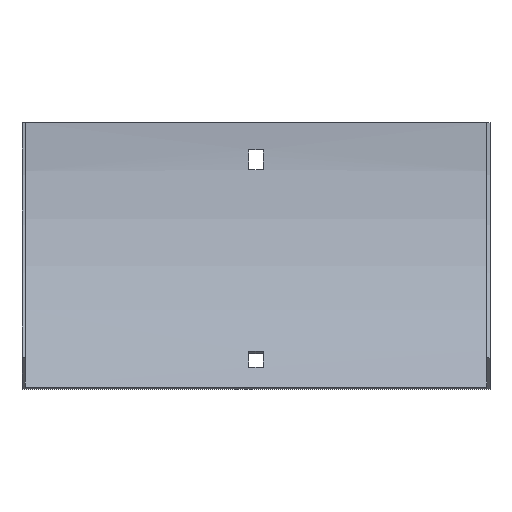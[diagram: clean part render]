
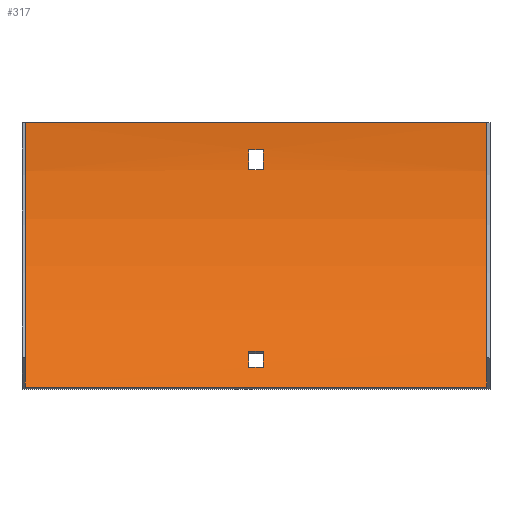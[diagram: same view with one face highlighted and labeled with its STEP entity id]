
A CAD part, front view. The second image highlights one B-rep face of the part: STEP entity #317.
In plain terms, the highlighted cylindrical face has radius 165.5 mm (diameter 331 mm), a partial arc.
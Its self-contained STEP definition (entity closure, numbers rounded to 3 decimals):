
#12 = ORIENTED_EDGE ( 'NONE', *, *, #75, .F. ) ;
#21 = EDGE_CURVE ( 'NONE', #300, #235, #240, .T. ) ;
#23 = VECTOR ( 'NONE', #302, 1000. ) ;
#27 = DIRECTION ( 'NONE',  ( 1., 0., 0. ) ) ;
#29 = EDGE_LOOP ( 'NONE', ( #36, #73, #588, #12 ) ) ;
#31 = CARTESIAN_POINT ( 'NONE',  ( -3.25, -167., 0. ) ) ;
#35 = CARTESIAN_POINT ( 'NONE',  ( 102., -49.974, -117.026 ) ) ;
#36 = ORIENTED_EDGE ( 'NONE', *, *, #131, .F. ) ;
#38 = CARTESIAN_POINT ( 'NONE',  ( -3.25, -167., 0. ) ) ;
#43 = LINE ( 'NONE', #553, #226 ) ;
#49 = VECTOR ( 'NONE', #450, 1000. ) ;
#53 = CARTESIAN_POINT ( 'NONE',  ( 102., -1.5, 0. ) ) ;
#62 = ORIENTED_EDGE ( 'NONE', *, *, #236, .F. ) ;
#71 = VERTEX_POINT ( 'NONE', #494 ) ;
#73 = ORIENTED_EDGE ( 'NONE', *, *, #89, .F. ) ;
#75 = EDGE_CURVE ( 'NONE', #132, #531, #127, .T. ) ;
#83 = CARTESIAN_POINT ( 'NONE',  ( 103.5, -1.936, -12. ) ) ;
#89 = EDGE_CURVE ( 'NONE', #123, #71, #175, .T. ) ;
#90 = EDGE_CURVE ( 'NONE', #235, #485, #572, .T. ) ;
#95 = DIRECTION ( 'NONE',  ( 1., 0., 0. ) ) ;
#104 = LINE ( 'NONE', #53, #552 ) ;
#111 = ORIENTED_EDGE ( 'NONE', *, *, #21, .T. ) ;
#113 = CARTESIAN_POINT ( 'NONE',  ( 3.25, -2.838, -21. ) ) ;
#121 = DIRECTION ( 'NONE',  ( 0., 0., 1. ) ) ;
#123 = VERTEX_POINT ( 'NONE', #130 ) ;
#127 = LINE ( 'NONE', #312, #263 ) ;
#130 = CARTESIAN_POINT ( 'NONE',  ( 3.25, -1.936, -12. ) ) ;
#131 = EDGE_CURVE ( 'NONE', #71, #132, #488, .T. ) ;
#132 = VERTEX_POINT ( 'NONE', #505 ) ;
#136 = AXIS2_PLACEMENT_3D ( 'NONE', #326, #481, #329 ) ;
#140 = CARTESIAN_POINT ( 'NONE',  ( 3.25, -167., 0. ) ) ;
#145 = CIRCLE ( 'NONE', #136, 165.5 ) ;
#149 = CIRCLE ( 'NONE', #560, 165.5 ) ;
#150 = DIRECTION ( 'NONE',  ( -1., 0., 0. ) ) ;
#153 = VERTEX_POINT ( 'NONE', #35 ) ;
#162 = FACE_OUTER_BOUND ( 'NONE', #196, .T. ) ;
#165 = DIRECTION ( 'NONE',  ( -1., 0., 0. ) ) ;
#173 = VERTEX_POINT ( 'NONE', #174 ) ;
#174 = CARTESIAN_POINT ( 'NONE',  ( -102., -49.974, -117.026 ) ) ;
#175 = LINE ( 'NONE', #83, #49 ) ;
#181 = CIRCLE ( 'NONE', #325, 165.5 ) ;
#196 = EDGE_LOOP ( 'NONE', ( #213, #62, #353, #203 ) ) ;
#197 = AXIS2_PLACEMENT_3D ( 'NONE', #389, #541, #121 ) ;
#200 = VERTEX_POINT ( 'NONE', #258 ) ;
#201 = CARTESIAN_POINT ( 'NONE',  ( 103.5, -41.797, -108.233 ) ) ;
#203 = ORIENTED_EDGE ( 'NONE', *, *, #525, .T. ) ;
#213 = ORIENTED_EDGE ( 'NONE', *, *, #230, .F. ) ;
#214 = DIRECTION ( 'NONE',  ( 0., 0., -1. ) ) ;
#226 = VECTOR ( 'NONE', #511, 1000. ) ;
#230 = EDGE_CURVE ( 'NONE', #173, #375, #181, .T. ) ;
#235 = VERTEX_POINT ( 'NONE', #601 ) ;
#236 = EDGE_CURVE ( 'NONE', #153, #173, #43, .T. ) ;
#240 = LINE ( 'NONE', #201, #517 ) ;
#247 = DIRECTION ( 'NONE',  ( -1., 0., 0. ) ) ;
#258 = CARTESIAN_POINT ( 'NONE',  ( 102., -1.5, 0. ) ) ;
#262 = DIRECTION ( 'NONE',  ( 1., 0., 0. ) ) ;
#263 = VECTOR ( 'NONE', #262, 1000. ) ;
#269 = DIRECTION ( 'NONE',  ( 0., 0., 1. ) ) ;
#272 = DIRECTION ( 'NONE',  ( 0., 0., 1. ) ) ;
#275 = EDGE_CURVE ( 'NONE', #153, #200, #445, .T. ) ;
#278 = AXIS2_PLACEMENT_3D ( 'NONE', #31, #27, #214 ) ;
#279 = EDGE_CURVE ( 'NONE', #485, #586, #439, .T. ) ;
#297 = CARTESIAN_POINT ( 'NONE',  ( 3.25, -41.797, -108.233 ) ) ;
#298 = AXIS2_PLACEMENT_3D ( 'NONE', #38, #356, #547 ) ;
#300 = VERTEX_POINT ( 'NONE', #297 ) ;
#302 = DIRECTION ( 'NONE',  ( 1., 0., 0. ) ) ;
#309 = AXIS2_PLACEMENT_3D ( 'NONE', #495, #165, #351 ) ;
#312 = CARTESIAN_POINT ( 'NONE',  ( 103.5, -2.838, -21. ) ) ;
#317 = ADVANCED_FACE ( 'NONE', ( #581, #162, #487 ), #583, .F. ) ;
#321 = CARTESIAN_POINT ( 'NONE',  ( -102., -167., 0. ) ) ;
#325 = AXIS2_PLACEMENT_3D ( 'NONE', #321, #95, #272 ) ;
#326 = CARTESIAN_POINT ( 'NONE',  ( 3.25, -167., 0. ) ) ;
#327 = EDGE_LOOP ( 'NONE', ( #111, #571, #493, #565 ) ) ;
#329 = DIRECTION ( 'NONE',  ( 0., 0., -1. ) ) ;
#332 = CARTESIAN_POINT ( 'NONE',  ( -3.25, -36.071, -101.231 ) ) ;
#345 = CARTESIAN_POINT ( 'NONE',  ( 103.5, -36.071, -101.231 ) ) ;
#351 = DIRECTION ( 'NONE',  ( 0., 0., 1. ) ) ;
#353 = ORIENTED_EDGE ( 'NONE', *, *, #275, .T. ) ;
#356 = DIRECTION ( 'NONE',  ( -1., 0., 0. ) ) ;
#375 = VERTEX_POINT ( 'NONE', #556 ) ;
#378 = EDGE_CURVE ( 'NONE', #586, #300, #149, .T. ) ;
#389 = CARTESIAN_POINT ( 'NONE',  ( 102., -167., 0. ) ) ;
#422 = CARTESIAN_POINT ( 'NONE',  ( 3.25, -36.071, -101.231 ) ) ;
#439 = LINE ( 'NONE', #345, #23 ) ;
#445 = CIRCLE ( 'NONE', #197, 165.5 ) ;
#450 = DIRECTION ( 'NONE',  ( -1., 0., 0. ) ) ;
#481 = DIRECTION ( 'NONE',  ( 1., 0., 0. ) ) ;
#485 = VERTEX_POINT ( 'NONE', #332 ) ;
#487 = FACE_BOUND ( 'NONE', #327, .T. ) ;
#488 = CIRCLE ( 'NONE', #298, 165.5 ) ;
#493 = ORIENTED_EDGE ( 'NONE', *, *, #279, .T. ) ;
#494 = CARTESIAN_POINT ( 'NONE',  ( -3.25, -1.936, -12. ) ) ;
#495 = CARTESIAN_POINT ( 'NONE',  ( 103.5, -167., 0. ) ) ;
#503 = EDGE_CURVE ( 'NONE', #531, #123, #145, .T. ) ;
#505 = CARTESIAN_POINT ( 'NONE',  ( -3.25, -2.838, -21. ) ) ;
#511 = DIRECTION ( 'NONE',  ( -1., 0., 0. ) ) ;
#517 = VECTOR ( 'NONE', #150, 1000. ) ;
#525 = EDGE_CURVE ( 'NONE', #200, #375, #104, .T. ) ;
#531 = VERTEX_POINT ( 'NONE', #113 ) ;
#541 = DIRECTION ( 'NONE',  ( 1., 0., 0. ) ) ;
#547 = DIRECTION ( 'NONE',  ( 0., 0., 1. ) ) ;
#552 = VECTOR ( 'NONE', #247, 1000. ) ;
#553 = CARTESIAN_POINT ( 'NONE',  ( 102., -49.974, -117.026 ) ) ;
#556 = CARTESIAN_POINT ( 'NONE',  ( -102., -1.5, 0. ) ) ;
#560 = AXIS2_PLACEMENT_3D ( 'NONE', #140, #597, #269 ) ;
#565 = ORIENTED_EDGE ( 'NONE', *, *, #378, .T. ) ;
#571 = ORIENTED_EDGE ( 'NONE', *, *, #90, .T. ) ;
#572 = CIRCLE ( 'NONE', #278, 165.5 ) ;
#581 = FACE_BOUND ( 'NONE', #29, .T. ) ;
#583 = CYLINDRICAL_SURFACE ( 'NONE', #309, 165.5 ) ;
#586 = VERTEX_POINT ( 'NONE', #422 ) ;
#588 = ORIENTED_EDGE ( 'NONE', *, *, #503, .F. ) ;
#597 = DIRECTION ( 'NONE',  ( -1., 0., 0. ) ) ;
#601 = CARTESIAN_POINT ( 'NONE',  ( -3.25, -41.797, -108.233 ) ) ;
